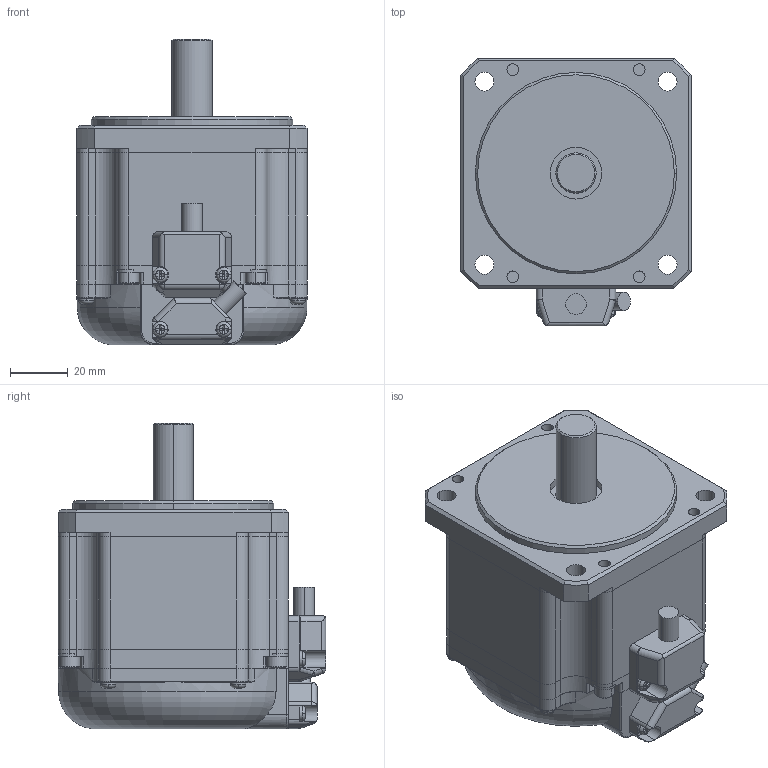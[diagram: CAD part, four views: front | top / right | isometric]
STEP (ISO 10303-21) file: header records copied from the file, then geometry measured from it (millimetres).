
FILE_DESCRIPTION(('Creo Elements/Direct Modeling STEP Export'),'2;1');
FILE_NAME('TS4612_BK無.stp','2016-12-22T16:45:06',(''),(''),'Creo Elements/Direct Modeling STEP processor for AP214 (Solid Model)','Creo Elements/Direct Modeling 17.0F 20-Aug-2012 (C) Parametric Technology GmbH','');
FILE_SCHEMA(('AUTOMOTIVE_DESIGN { 1 0 10303 214 1 1 1 1 }'));
Length unit declared in the file: millimetre
Products named in the file (2): TS4612N1000; ﾓｰﾀ
Assembly tree (1 placements, depth 2):
  ﾓｰﾀ
    TS4612N1000
Bounding box: 80 x 93 x 106.3 mm (x, y, z)
Volume: 442365 mm3; surface area: 39111 mm2
Topology: 1 solids, 1 shells, 667 faces, 1585 edges, 924 vertices
Faces by surface type: plane 335, cylinder 227, cone 40, sphere 28, torus 27, bspline 10
Entity records: 20482 total; most frequent: CARTESIAN_POINT 4802, ORIENTED_EDGE 3132, DIRECTION 3049, EDGE_CURVE 1566, AXIS2_PLACEMENT_3D 1167, VERTEX_POINT 924, VECTOR 715, LINE 715
